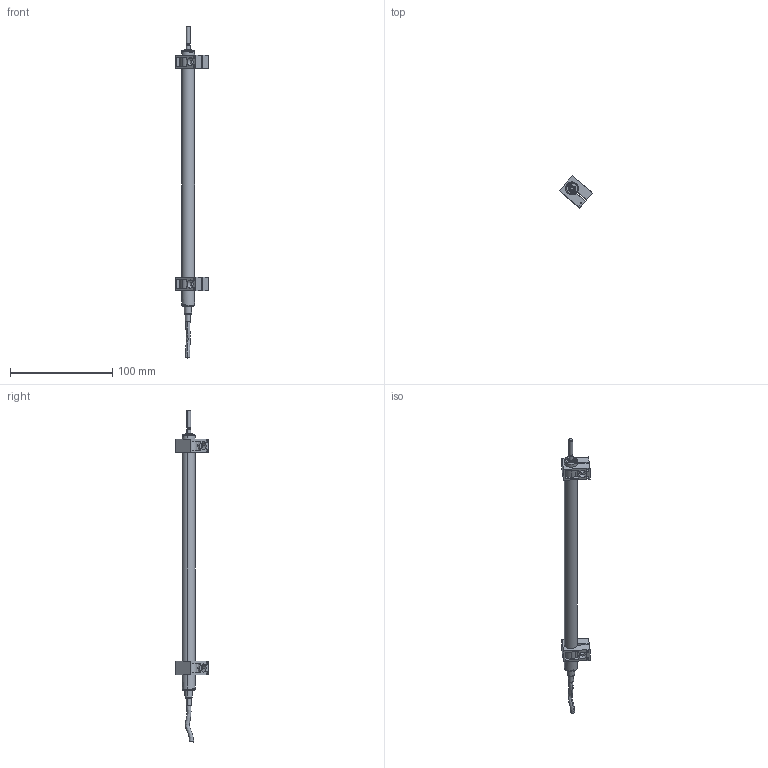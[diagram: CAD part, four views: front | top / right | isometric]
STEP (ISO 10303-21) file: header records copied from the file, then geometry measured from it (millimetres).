
FILE_DESCRIPTION(('STEP AP203'),'1');
FILE_NAME('C:/TPO v2/SharedFS/Outgoing/burster_8709-5200_4v0hjottthnthr3sr8ype71q8.stp','2013-08-27T15:08:22',('TraceParts'),('TraceParts S.A.'),'XStep 1.0',' ',' ');
FILE_SCHEMA(('CONFIG_CONTROL_DESIGN'));
Length unit declared in the file: millimetre
Products named in the file (1): 1
Bounding box: 32.11 x 31.32 x 324.2 mm (x, y, z)
Volume: 38373 mm3; surface area: 18675 mm2
Topology: 1 solids, 6 shells, 420 faces, 1112 edges, 722 vertices
Faces by surface type: plane 195, cylinder 121, cone 82, torus 12, sphere 8, bspline 2
Entity records: 13974 total; most frequent: CARTESIAN_POINT 3230, DIRECTION 2388, ORIENTED_EDGE 2226, EDGE_CURVE 1113, AXIS2_PLACEMENT_3D 956, VERTEX_POINT 722, CIRCLE 521, LINE 476
